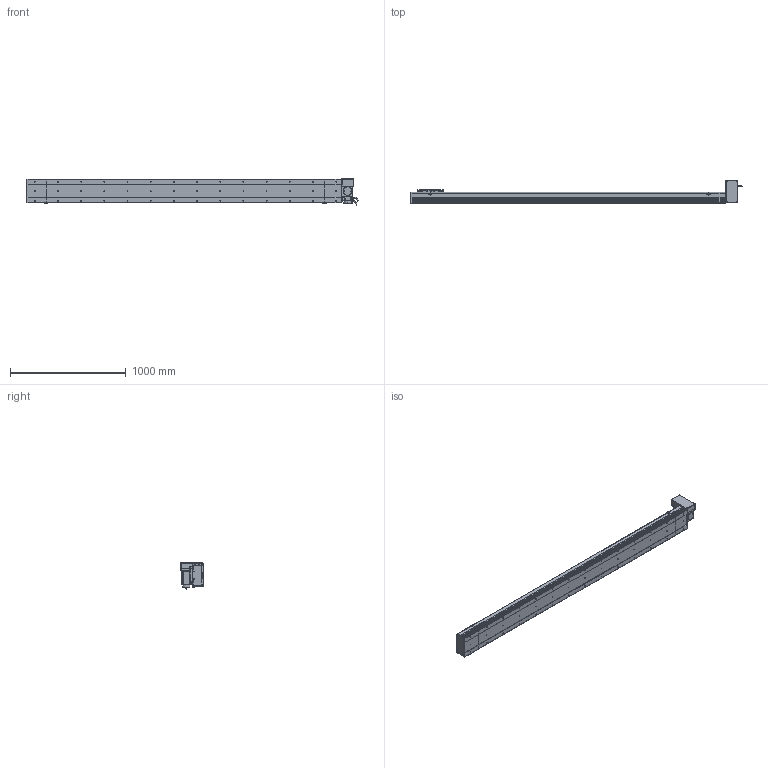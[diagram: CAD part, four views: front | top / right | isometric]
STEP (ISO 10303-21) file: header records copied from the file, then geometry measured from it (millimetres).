
FILE_DESCRIPTION (( 'STEP AP214' ), '1' );
FILE_NAME ('D20 CBH LT S2400.STEP', '2010-06-30T10:12:42', ( 'Conseil Régional Haute-Normandie' ), ( 'Conseil Régional Haute-Normandie' ), 'SwSTEP 2.0', 'SolidWorks 2010', '' );
FILE_SCHEMA (( 'AUTOMOTIVE_DESIGN' ));
Length unit declared in the file: millimetre
Products named in the file (31): vis M5 L30_Default; Glissiere_Default; Chariot D20_Default; Support Chariot D20_Default; Couvercle_Default; Corp Tail D20_Default; Tail D20_Default; Corp D20 S2400_Default; vis M5 L47_Default; vis M5 L15_Default; Plaque De Serrage D20_Default; Plaque de Bout Tail D20_Default; Couvercle S2400_Default; Corp S2400_Default; Couvercle LT_Default; Corp Tail D20 LT_Default; Plaque De Serrage D20 LT_Default; Plaque de Bout Head D20 LT_Default; D20 CBH LT S2400; Conecteur_Default; Conecteur2_Default; codeur 90BLDC125-640; corps 90BLDC125A-640; ecrou_Default; Cache Support Moteur LT_Default; Head LT_Default; avant 90BLDC125A-640; Moteur motionking 90BLDC125A-640; Support moteur LT_Default; Rondelle Cache D20 LT_Default
Assembly tree (66 placements, depth 4):
  D20 CBH LT S2400
    Head LT_Default
      vis M5 L47_Default  x4
      vis M5 L15_Default  x12
      Cache Support Moteur LT_Default
      vis M5 L30_Default  x4
      Support moteur LT_Default
      Rondelle Cache D20 LT_Default  x3
      ecrou_Default  x4
      Plaque De Serrage D20 LT_Default
      Plaque de Bout Head D20 LT_Default
      Corp Tail D20 LT_Default
      Couvercle LT_Default
      Moteur motionking 90BLDC125A-640
        corps 90BLDC125A-640
        Conecteur2_Default
        codeur 90BLDC125-640
        avant 90BLDC125A-640
        Conecteur_Default
    Chariot D20_Default
      vis M5 L15_Default  x8
      Chariot D20_Default
      Glissiere_Default
      Support Chariot D20_Default
    Tail D20_Default
      Couvercle_Default
      vis M5 L15_Default  x6
      Plaque de Bout Tail D20_Default
      Corp Tail D20_Default
      Plaque De Serrage D20_Default
    Corp D20 S2400_Default
      Corp S2400_Default
      Couvercle S2400_Default
Bounding box: 2863.45 x 202.5 x 229.7 mm (x, y, z)
Volume: 19374496.5 mm3; surface area: 3772278.9 mm2
Topology: 103 solids, 103 shells, 3801 faces, 9512 edges, 6184 vertices
Faces by surface type: plane 2104, bspline 806, cylinder 728, torus 91, cone 68, sphere 4
Entity records: 161350 total; most frequent: CARTESIAN_POINT 83341, ORIENTED_EDGE 15492, DIRECTION 11760, EDGE_CURVE 7746, VERTEX_POINT 5128, VECTOR 4958, LINE 4958, AXIS2_PLACEMENT_3D 3401
